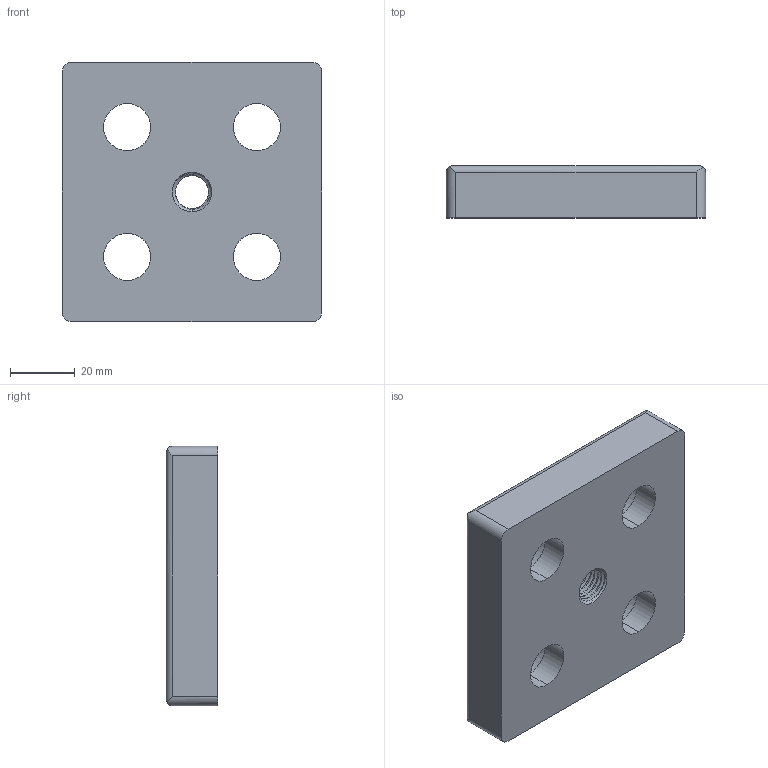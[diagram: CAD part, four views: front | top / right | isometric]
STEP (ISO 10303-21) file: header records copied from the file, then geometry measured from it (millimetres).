
FILE_DESCRIPTION (( 'STEP AP203' ), '1' );
FILE_NAME ('503060_Transport- u. Fußplatte ZN 80x80 Nut10 M12 vz.step', '2022-08-02T06:32:36', ( '' ), ( '' ), 'SwSTEP 2.0', 'SolidWorks 2021', '' );
FILE_SCHEMA (( 'CONFIG_CONTROL_DESIGN' ));
Length unit declared in the file: millimetre
Products named in the file (1): 503060_Transport- u. Fußplatte ZN 80x80 Nut10 M12 vz
Bounding box: 80 x 16 x 80 mm (x, y, z)
Volume: 85160.3 mm3; surface area: 20358.6 mm2
Topology: 1 solids, 1 shells, 62 faces, 167 edges, 111 vertices
Faces by surface type: cylinder 44, plane 10, cone 5, bspline 3
Entity records: 3926 total; most frequent: CARTESIAN_POINT 2409, ORIENTED_EDGE 334, DIRECTION 266, EDGE_CURVE 167, VERTEX_POINT 111, AXIS2_PLACEMENT_3D 103, EDGE_LOOP 76, FACE_OUTER_BOUND 62
